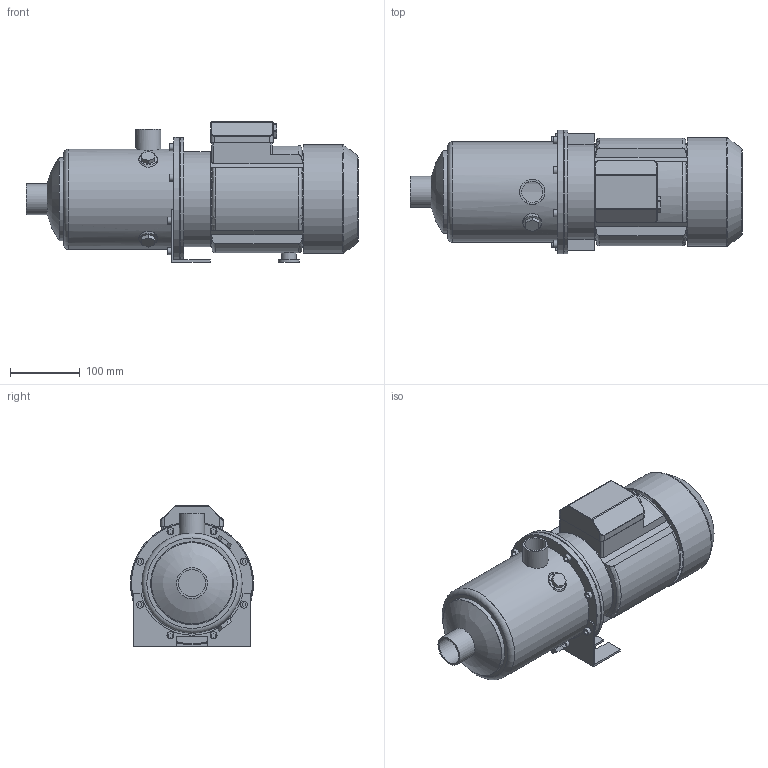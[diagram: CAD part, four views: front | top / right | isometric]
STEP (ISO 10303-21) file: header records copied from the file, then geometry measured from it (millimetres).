
FILE_DESCRIPTION(/* description */ ('Unknown'),/* implementation_level */ '2;1');
FILE_NAME(/* name */ 'MH 5 [6] T',/* time_stamp */ '2026-07-10T14:57:56+02:00',/* author */ ('Unknown'),/* organization */ ('Unknown'),/* preprocessor_version */ 'ST-DEVELOPER v20',/* originating_system */ 'Solid Edge',/* authorisation */ 'Unknown');
FILE_SCHEMA (('AUTOMOTIVE_DESIGN {1 0 10303 214 3 1 1}'));
Length unit declared in the file: millimetre
Products named in the file (10): MH 5 [6] T; Flangia motore Tonda M80; Corpo MH 3-5 [6]; Mot_Wendy_MEC80_11-15_T; carcassa MEC 80-Wendy; Copriventola MEC 80-Wendy; Basetta MEC 80 T-Wendy_new; Piedino MEC 80 int.90; Staffa 3-5-9 int.90
Assembly tree (8 placements, depth 3):
  MH 5 [6] T
    Flangia motore Tonda M80
    Corpo MH 3-5 [6]
    Mot_Wendy_MEC80_11-15_T
      carcassa MEC 80-Wendy
      Copriventola MEC 80-Wendy
      Basetta MEC 80 T-Wendy_new
    Piedino MEC 80 int.90
    Staffa 3-5-9 int.90
  (unnamed)
Bounding box: 475.1 x 176.5 x 200.5 mm (x, y, z)
Volume: 2068701.2 mm3; surface area: 588132.6 mm2
Topology: 8 solids, 8 shells, 276 faces, 647 edges, 429 vertices
Faces by surface type: plane 163, cylinder 74, torus 19, cone 14, bspline 4, sphere 2
Full cylindrical faces by diameter (mm): 7 x4, 10 x9, 13.5 x1, 17.5 x1, 21 x1, 30 x1, 30.291 x1, 36 x1, 38.952 x1, 44.5 x1, 116.1 x1, 118.5 x1, 125 x1, 130 x3, 134 x1, 136 x1, 141.1 x1, 143.5 x1, 153.5 x1, 155.5 x1, 173.5 x1, 174.1 x1, 176.5 x2
Entity records: 8860 total; most frequent: CARTESIAN_POINT 1595, DIRECTION 1262, ORIENTED_EDGE 1118, EDGE_CURVE 559, AXIS2_PLACEMENT_3D 461, VERTEX_POINT 398, EDGE_LOOP 385, FACE_BOUND 385
